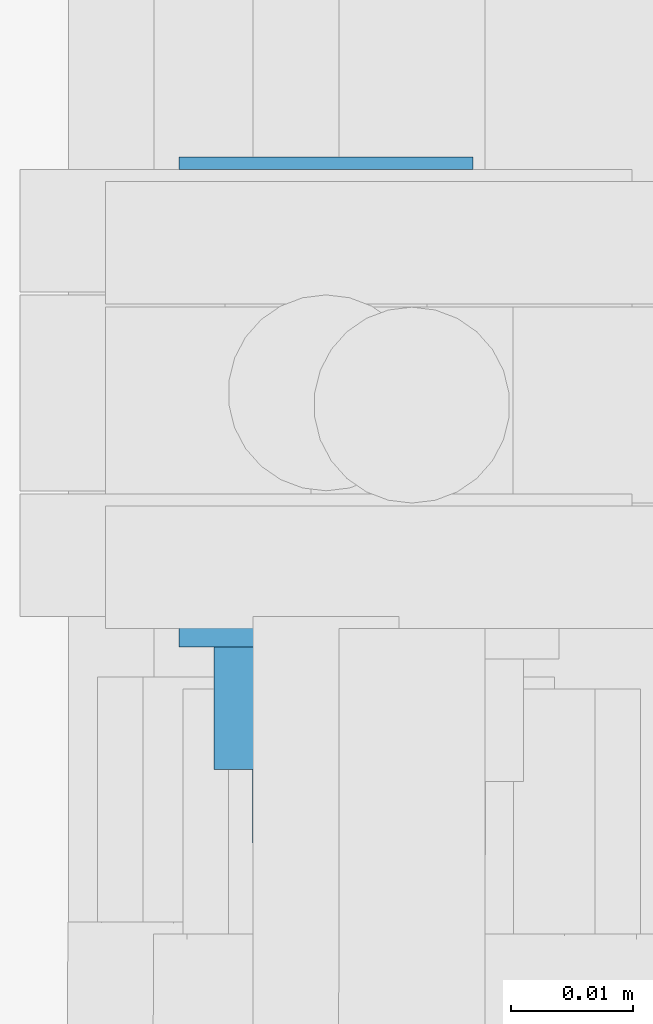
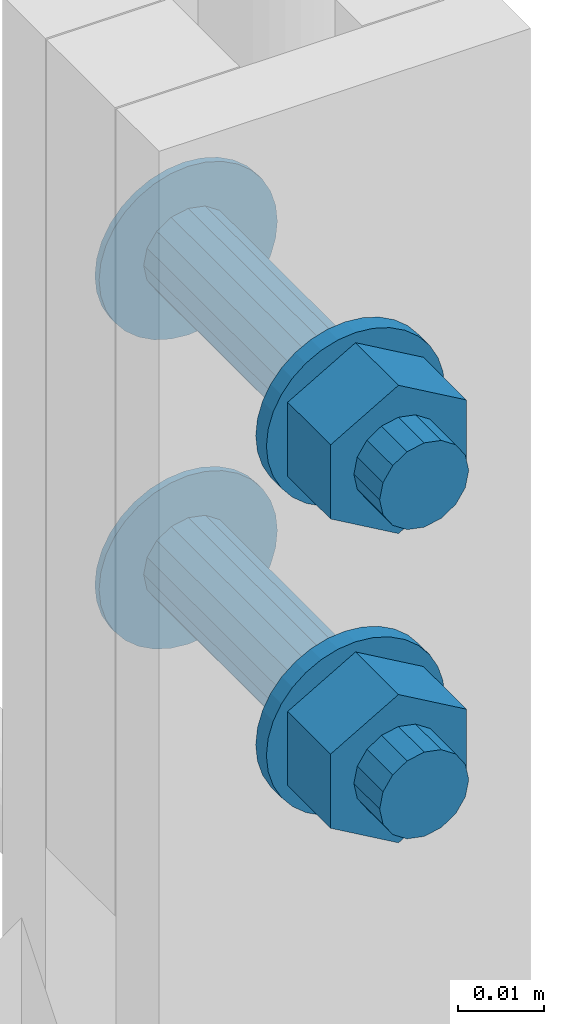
# One storey, part 87 of 98: 1 mechanical fastener.
"""IFC2X3 building model written with IfcOpenShell, lengths in millimetres."""

from ifc_helpers import new_model, entity, si_unit, converted_unit, origin_with_axes, place, context, project, spatial, faceted_brep, element, save


model = new_model("IFC2X3")

# Units and contexts
model_context = context("Model", 3, precision=1e-09, world=origin_with_axes())
ifc_project = project(units=[si_unit("LENGTHUNIT", "METRE", prefix="MILLI"), si_unit("AREAUNIT", "SQUARE_METRE"), si_unit("VOLUMEUNIT", "CUBIC_METRE"), converted_unit("PLANEANGLEUNIT", "DEGREE", entity("IfcPlaneAngleMeasure", 0.01745329), si_unit("PLANEANGLEUNIT", "RADIAN"), dimensions=[0, 0, 0, 0, 0, 0, 0])], contexts=[model_context])

# Site, building, storey
site_placement = place(None, origin_with_axes())
site = spatial("IfcSite", under=ifc_project, at=site_placement, Name="Maybachstra?e 2, 71563 Affalterbach", CompositionType="ELEMENT")
building_placement = place(site_placement, origin_with_axes())
building = spatial("IfcBuilding", under=site, at=building_placement, Name="Struktur 1", CompositionType="ELEMENT")
storey_placement = place(building_placement, origin_with_axes())
storey = spatial("IfcBuildingStorey", under=building, at=storey_placement, Name="Default Storey", CompositionType="ELEMENT", Elevation=0.0)

# Mechanical fastener
mechanical_fastener_placement = place(None, origin_with_axes())
element("IfcMechanicalFastener", 1, at=mechanical_fastener_placement, inside=storey, ObjectType="-", NominalDiameter=12.0, NominalLength=55.0, context=model_context, shape_type="Brep", body=[
    faceted_brep([(12236.032157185, -462.75, 3832.6), (12236.032157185, -463.75, 3832.6), (12235.80158055, -463.75, 3830.258916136), (12235.80158055, -462.75, 3830.258916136), (12235.118711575, -463.75, 3828.007798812), (12235.118711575, -462.75, 3828.007798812), (12234.009792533, -463.75, 3825.933157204), (12234.009792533, -462.75, 3825.933157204), (12232.517438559, -463.75, 3824.114718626), (12232.517438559, -462.75, 3824.114718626), (12230.698999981, -463.75, 3822.622364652), (12230.698999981, -462.75, 3822.622364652), (12228.624358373, -463.75, 3821.51344561), (12228.624358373, -462.75, 3821.51344561), (12226.373241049, -463.75, 3820.830576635), (12226.373241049, -462.75, 3820.830576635), (12224.032157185, -463.75, 3820.6), (12224.032157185, -462.75, 3820.6), (12221.691073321, -463.75, 3820.830576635), (12221.691073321, -462.75, 3820.830576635), (12219.439955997, -463.75, 3821.51344561), (12219.439955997, -462.75, 3821.51344561), (12217.365314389, -463.75, 3822.622364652), (12217.365314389, -462.75, 3822.622364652), (12215.546875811, -463.75, 3824.114718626), (12215.546875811, -462.75, 3824.114718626), (12214.054521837, -463.75, 3825.933157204), (12214.054521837, -462.75, 3825.933157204), (12212.945602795, -463.75, 3828.007798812), (12212.945602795, -462.75, 3828.007798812), (12212.26273382, -463.75, 3830.258916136), (12212.26273382, -462.75, 3830.258916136), (12212.032157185, -463.75, 3832.6), (12212.032157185, -462.75, 3832.6), (12212.26273382, -463.75, 3834.941083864), (12212.26273382, -462.75, 3834.941083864), (12212.945602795, -463.75, 3837.192201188), (12212.945602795, -462.75, 3837.192201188), (12214.054521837, -463.75, 3839.266842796), (12214.054521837, -462.75, 3839.266842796), (12215.546875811, -463.75, 3841.085281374), (12215.546875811, -462.75, 3841.085281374), (12217.365314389, -463.75, 3842.577635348), (12217.365314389, -462.75, 3842.577635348), (12219.439955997, -463.75, 3843.68655439), (12219.439955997, -462.75, 3843.68655439), (12221.691073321, -463.75, 3844.369423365), (12221.691073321, -462.75, 3844.369423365), (12224.032157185, -463.75, 3844.6), (12224.032157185, -462.75, 3844.6), (12226.373241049, -463.75, 3844.369423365), (12226.373241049, -462.75, 3844.369423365), (12228.624358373, -463.75, 3843.68655439), (12228.624358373, -462.75, 3843.68655439), (12230.698999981, -463.75, 3842.577635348), (12230.698999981, -462.75, 3842.577635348), (12232.517438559, -463.75, 3841.085281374), (12232.517438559, -462.75, 3841.085281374), (12234.009792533, -463.75, 3839.266842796), (12234.009792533, -462.75, 3839.266842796), (12235.118711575, -463.75, 3837.192201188), (12235.118711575, -462.75, 3837.192201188), (12235.80158055, -463.75, 3834.941083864), (12235.80158055, -462.75, 3834.941083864)], [[[0, 1, 2, 3]], [[3, 2, 4, 5]], [[5, 4, 6, 7]], [[7, 6, 8, 9]], [[9, 8, 10, 11]], [[11, 10, 12, 13]], [[13, 12, 14, 15]], [[15, 14, 16, 17]], [[17, 16, 18, 19]], [[19, 18, 20, 21]], [[21, 20, 22, 23]], [[23, 22, 24, 25]], [[25, 24, 26, 27]], [[27, 26, 28, 29]], [[29, 28, 30, 31]], [[31, 30, 32, 33]], [[33, 32, 34, 35]], [[35, 34, 36, 37]], [[37, 36, 38, 39]], [[39, 38, 40, 41]], [[41, 40, 42, 43]], [[43, 42, 44, 45]], [[45, 44, 46, 47]], [[47, 46, 48, 49]], [[49, 48, 50, 51]], [[51, 50, 52, 53]], [[53, 52, 54, 55]], [[55, 54, 56, 57]], [[57, 56, 58, 59]], [[59, 58, 60, 61]], [[61, 60, 62, 63]], [[63, 62, 1, 0]], [[0, 3, 5, 7, 9, 11, 13, 15, 17, 19, 21, 23, 25, 27, 29, 31, 33, 35, 37, 39, 41, 43, 45, 47, 49, 51, 53, 55, 57, 59, 61, 63]], [[1, 62, 60, 58, 56, 54, 52, 50, 48, 46, 44, 42, 40, 38, 36, 34, 32, 30, 28, 26, 24, 22, 20, 18, 16, 14, 12, 10, 8, 6, 4, 2]]]),
    faceted_brep([(12236.032157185, -462.75, 3788.6), (12236.032157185, -463.75, 3788.6), (12235.80158055, -463.75, 3786.258916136), (12235.80158055, -462.75, 3786.258916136), (12235.118711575, -463.75, 3784.007798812), (12235.118711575, -462.75, 3784.007798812), (12234.009792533, -463.75, 3781.933157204), (12234.009792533, -462.75, 3781.933157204), (12232.517438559, -463.75, 3780.114718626), (12232.517438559, -462.75, 3780.114718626), (12230.698999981, -463.75, 3778.622364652), (12230.698999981, -462.75, 3778.622364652), (12228.624358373, -463.75, 3777.51344561), (12228.624358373, -462.75, 3777.51344561), (12226.373241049, -463.75, 3776.830576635), (12226.373241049, -462.75, 3776.830576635), (12224.032157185, -463.75, 3776.6), (12224.032157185, -462.75, 3776.6), (12221.691073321, -463.75, 3776.830576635), (12221.691073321, -462.75, 3776.830576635), (12219.439955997, -463.75, 3777.51344561), (12219.439955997, -462.75, 3777.51344561), (12217.365314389, -463.75, 3778.622364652), (12217.365314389, -462.75, 3778.622364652), (12215.546875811, -463.75, 3780.114718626), (12215.546875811, -462.75, 3780.114718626), (12214.054521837, -463.75, 3781.933157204), (12214.054521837, -462.75, 3781.933157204), (12212.945602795, -463.75, 3784.007798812), (12212.945602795, -462.75, 3784.007798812), (12212.26273382, -463.75, 3786.258916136), (12212.26273382, -462.75, 3786.258916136), (12212.032157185, -463.75, 3788.6), (12212.032157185, -462.75, 3788.6), (12212.26273382, -463.75, 3790.941083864), (12212.26273382, -462.75, 3790.941083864), (12212.945602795, -463.75, 3793.192201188), (12212.945602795, -462.75, 3793.192201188), (12214.054521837, -463.75, 3795.266842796), (12214.054521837, -462.75, 3795.266842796), (12215.546875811, -463.75, 3797.085281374), (12215.546875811, -462.75, 3797.085281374), (12217.365314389, -463.75, 3798.577635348), (12217.365314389, -462.75, 3798.577635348), (12219.439955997, -463.75, 3799.68655439), (12219.439955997, -462.75, 3799.68655439), (12221.691073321, -463.75, 3800.369423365), (12221.691073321, -462.75, 3800.369423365), (12224.032157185, -463.75, 3800.6), (12224.032157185, -462.75, 3800.6), (12226.373241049, -463.75, 3800.369423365), (12226.373241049, -462.75, 3800.369423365), (12228.624358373, -463.75, 3799.68655439), (12228.624358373, -462.75, 3799.68655439), (12230.698999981, -463.75, 3798.577635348), (12230.698999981, -462.75, 3798.577635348), (12232.517438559, -463.75, 3797.085281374), (12232.517438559, -462.75, 3797.085281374), (12234.009792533, -463.75, 3795.266842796), (12234.009792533, -462.75, 3795.266842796), (12235.118711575, -463.75, 3793.192201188), (12235.118711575, -462.75, 3793.192201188), (12235.80158055, -463.75, 3790.941083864), (12235.80158055, -462.75, 3790.941083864)], [[[0, 1, 2, 3]], [[3, 2, 4, 5]], [[5, 4, 6, 7]], [[7, 6, 8, 9]], [[9, 8, 10, 11]], [[11, 10, 12, 13]], [[13, 12, 14, 15]], [[15, 14, 16, 17]], [[17, 16, 18, 19]], [[19, 18, 20, 21]], [[21, 20, 22, 23]], [[23, 22, 24, 25]], [[25, 24, 26, 27]], [[27, 26, 28, 29]], [[29, 28, 30, 31]], [[31, 30, 32, 33]], [[33, 32, 34, 35]], [[35, 34, 36, 37]], [[37, 36, 38, 39]], [[39, 38, 40, 41]], [[41, 40, 42, 43]], [[43, 42, 44, 45]], [[45, 44, 46, 47]], [[47, 46, 48, 49]], [[49, 48, 50, 51]], [[51, 50, 52, 53]], [[53, 52, 54, 55]], [[55, 54, 56, 57]], [[57, 56, 58, 59]], [[59, 58, 60, 61]], [[61, 60, 62, 63]], [[63, 62, 1, 0]], [[0, 3, 5, 7, 9, 11, 13, 15, 17, 19, 21, 23, 25, 27, 29, 31, 33, 35, 37, 39, 41, 43, 45, 47, 49, 51, 53, 55, 57, 59, 61, 63]], [[1, 62, 60, 58, 56, 54, 52, 50, 48, 46, 44, 42, 40, 38, 36, 34, 32, 30, 28, 26, 24, 22, 20, 18, 16, 14, 12, 10, 8, 6, 4, 2]]]),
    faceted_brep([(12230.032157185, -463.75, 3832.6), (12230.032157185, -500.25, 3832.6), (12229.57543438, -500.25, 3830.303899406), (12229.57543438, -463.75, 3830.303899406), (12228.274797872, -500.25, 3828.357359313), (12228.274797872, -463.75, 3828.357359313), (12226.328257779, -500.25, 3827.056722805), (12226.328257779, -463.75, 3827.056722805), (12224.032157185, -500.25, 3826.6), (12224.032157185, -463.75, 3826.6), (12221.736056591, -500.25, 3827.056722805), (12221.736056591, -463.75, 3827.056722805), (12219.789516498, -500.25, 3828.357359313), (12219.789516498, -463.75, 3828.357359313), (12218.48887999, -500.25, 3830.303899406), (12218.48887999, -463.75, 3830.303899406), (12218.032157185, -500.25, 3832.6), (12218.032157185, -463.75, 3832.6), (12218.48887999, -500.25, 3834.896100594), (12218.48887999, -463.75, 3834.896100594), (12219.789516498, -500.25, 3836.842640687), (12219.789516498, -463.75, 3836.842640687), (12221.736056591, -500.25, 3838.143277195), (12221.736056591, -463.75, 3838.143277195), (12224.032157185, -500.25, 3838.6), (12224.032157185, -463.75, 3838.6), (12226.328257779, -500.25, 3838.143277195), (12226.328257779, -463.75, 3838.143277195), (12228.274797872, -500.25, 3836.842640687), (12228.274797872, -463.75, 3836.842640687), (12229.57543438, -500.25, 3834.896100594), (12229.57543438, -463.75, 3834.896100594)], [[[0, 1, 2, 3]], [[3, 2, 4, 5]], [[5, 4, 6, 7]], [[7, 6, 8, 9]], [[9, 8, 10, 11]], [[11, 10, 12, 13]], [[13, 12, 14, 15]], [[15, 14, 16, 17]], [[17, 16, 18, 19]], [[19, 18, 20, 21]], [[21, 20, 22, 23]], [[23, 22, 24, 25]], [[25, 24, 26, 27]], [[27, 26, 28, 29]], [[29, 28, 30, 31]], [[31, 30, 1, 0]], [[0, 3, 5, 7, 9, 11, 13, 15, 17, 19, 21, 23, 25, 27, 29, 31]], [[1, 30, 28, 26, 24, 22, 20, 18, 16, 14, 12, 10, 8, 6, 4, 2]]]),
    faceted_brep([(12230.032157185, -463.75, 3788.6), (12230.032157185, -500.25, 3788.6), (12229.57543438, -500.25, 3786.303899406), (12229.57543438, -463.75, 3786.303899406), (12228.274797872, -500.25, 3784.357359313), (12228.274797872, -463.75, 3784.357359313), (12226.328257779, -500.25, 3783.056722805), (12226.328257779, -463.75, 3783.056722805), (12224.032157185, -500.25, 3782.6), (12224.032157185, -463.75, 3782.6), (12221.736056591, -500.25, 3783.056722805), (12221.736056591, -463.75, 3783.056722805), (12219.789516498, -500.25, 3784.357359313), (12219.789516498, -463.75, 3784.357359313), (12218.48887999, -500.25, 3786.303899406), (12218.48887999, -463.75, 3786.303899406), (12218.032157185, -500.25, 3788.6), (12218.032157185, -463.75, 3788.6), (12218.48887999, -500.25, 3790.896100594), (12218.48887999, -463.75, 3790.896100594), (12219.789516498, -500.25, 3792.842640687), (12219.789516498, -463.75, 3792.842640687), (12221.736056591, -500.25, 3794.143277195), (12221.736056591, -463.75, 3794.143277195), (12224.032157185, -500.25, 3794.6), (12224.032157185, -463.75, 3794.6), (12226.328257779, -500.25, 3794.143277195), (12226.328257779, -463.75, 3794.143277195), (12228.274797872, -500.25, 3792.842640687), (12228.274797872, -463.75, 3792.842640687), (12229.57543438, -500.25, 3790.896100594), (12229.57543438, -463.75, 3790.896100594)], [[[0, 1, 2, 3]], [[3, 2, 4, 5]], [[5, 4, 6, 7]], [[7, 6, 8, 9]], [[9, 8, 10, 11]], [[11, 10, 12, 13]], [[13, 12, 14, 15]], [[15, 14, 16, 17]], [[17, 16, 18, 19]], [[19, 18, 20, 21]], [[21, 20, 22, 23]], [[23, 22, 24, 25]], [[25, 24, 26, 27]], [[27, 26, 28, 29]], [[29, 28, 30, 31]], [[31, 30, 1, 0]], [[0, 3, 5, 7, 9, 11, 13, 15, 17, 19, 21, 23, 25, 27, 29, 31]], [[1, 30, 28, 26, 24, 22, 20, 18, 16, 14, 12, 10, 8, 6, 4, 2]]]),
    faceted_brep([(12236.032157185, -500.25, 3832.6), (12236.032157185, -502.75, 3832.6), (12235.80158055, -502.75, 3830.258916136), (12235.80158055, -500.25, 3830.258916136), (12235.118711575, -502.75, 3828.007798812), (12235.118711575, -500.25, 3828.007798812), (12234.009792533, -502.75, 3825.933157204), (12234.009792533, -500.25, 3825.933157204), (12232.517438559, -502.75, 3824.114718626), (12232.517438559, -500.25, 3824.114718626), (12230.698999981, -502.75, 3822.622364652), (12230.698999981, -500.25, 3822.622364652), (12228.624358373, -502.75, 3821.51344561), (12228.624358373, -500.25, 3821.51344561), (12226.373241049, -502.75, 3820.830576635), (12226.373241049, -500.25, 3820.830576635), (12224.032157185, -502.75, 3820.6), (12224.032157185, -500.25, 3820.6), (12221.691073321, -502.75, 3820.830576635), (12221.691073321, -500.25, 3820.830576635), (12219.439955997, -502.75, 3821.51344561), (12219.439955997, -500.25, 3821.51344561), (12217.365314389, -502.75, 3822.622364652), (12217.365314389, -500.25, 3822.622364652), (12215.546875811, -502.75, 3824.114718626), (12215.546875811, -500.25, 3824.114718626), (12214.054521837, -502.75, 3825.933157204), (12214.054521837, -500.25, 3825.933157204), (12212.945602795, -502.75, 3828.007798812), (12212.945602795, -500.25, 3828.007798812), (12212.26273382, -502.75, 3830.258916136), (12212.26273382, -500.25, 3830.258916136), (12212.032157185, -502.75, 3832.6), (12212.032157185, -500.25, 3832.6), (12212.26273382, -502.75, 3834.941083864), (12212.26273382, -500.25, 3834.941083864), (12212.945602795, -502.75, 3837.192201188), (12212.945602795, -500.25, 3837.192201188), (12214.054521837, -502.75, 3839.266842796), (12214.054521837, -500.25, 3839.266842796), (12215.546875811, -502.75, 3841.085281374), (12215.546875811, -500.25, 3841.085281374), (12217.365314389, -502.75, 3842.577635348), (12217.365314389, -500.25, 3842.577635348), (12219.439955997, -502.75, 3843.68655439), (12219.439955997, -500.25, 3843.68655439), (12221.691073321, -502.75, 3844.369423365), (12221.691073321, -500.25, 3844.369423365), (12224.032157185, -502.75, 3844.6), (12224.032157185, -500.25, 3844.6), (12226.373241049, -502.75, 3844.369423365), (12226.373241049, -500.25, 3844.369423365), (12228.624358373, -502.75, 3843.68655439), (12228.624358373, -500.25, 3843.68655439), (12230.698999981, -502.75, 3842.577635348), (12230.698999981, -500.25, 3842.577635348), (12232.517438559, -502.75, 3841.085281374), (12232.517438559, -500.25, 3841.085281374), (12234.009792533, -502.75, 3839.266842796), (12234.009792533, -500.25, 3839.266842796), (12235.118711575, -502.75, 3837.192201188), (12235.118711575, -500.25, 3837.192201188), (12235.80158055, -502.75, 3834.941083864), (12235.80158055, -500.25, 3834.941083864)], [[[0, 1, 2, 3]], [[3, 2, 4, 5]], [[5, 4, 6, 7]], [[7, 6, 8, 9]], [[9, 8, 10, 11]], [[11, 10, 12, 13]], [[13, 12, 14, 15]], [[15, 14, 16, 17]], [[17, 16, 18, 19]], [[19, 18, 20, 21]], [[21, 20, 22, 23]], [[23, 22, 24, 25]], [[25, 24, 26, 27]], [[27, 26, 28, 29]], [[29, 28, 30, 31]], [[31, 30, 32, 33]], [[33, 32, 34, 35]], [[35, 34, 36, 37]], [[37, 36, 38, 39]], [[39, 38, 40, 41]], [[41, 40, 42, 43]], [[43, 42, 44, 45]], [[45, 44, 46, 47]], [[47, 46, 48, 49]], [[49, 48, 50, 51]], [[51, 50, 52, 53]], [[53, 52, 54, 55]], [[55, 54, 56, 57]], [[57, 56, 58, 59]], [[59, 58, 60, 61]], [[61, 60, 62, 63]], [[63, 62, 1, 0]], [[0, 3, 5, 7, 9, 11, 13, 15, 17, 19, 21, 23, 25, 27, 29, 31, 33, 35, 37, 39, 41, 43, 45, 47, 49, 51, 53, 55, 57, 59, 61, 63]], [[1, 62, 60, 58, 56, 54, 52, 50, 48, 46, 44, 42, 40, 38, 36, 34, 32, 30, 28, 26, 24, 22, 20, 18, 16, 14, 12, 10, 8, 6, 4, 2]]]),
    faceted_brep([(12236.032157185, -500.25, 3788.6), (12236.032157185, -502.75, 3788.6), (12235.80158055, -502.75, 3786.258916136), (12235.80158055, -500.25, 3786.258916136), (12235.118711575, -502.75, 3784.007798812), (12235.118711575, -500.25, 3784.007798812), (12234.009792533, -502.75, 3781.933157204), (12234.009792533, -500.25, 3781.933157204), (12232.517438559, -502.75, 3780.114718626), (12232.517438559, -500.25, 3780.114718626), (12230.698999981, -502.75, 3778.622364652), (12230.698999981, -500.25, 3778.622364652), (12228.624358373, -502.75, 3777.51344561), (12228.624358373, -500.25, 3777.51344561), (12226.373241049, -502.75, 3776.830576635), (12226.373241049, -500.25, 3776.830576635), (12224.032157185, -502.75, 3776.6), (12224.032157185, -500.25, 3776.6), (12221.691073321, -502.75, 3776.830576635), (12221.691073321, -500.25, 3776.830576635), (12219.439955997, -502.75, 3777.51344561), (12219.439955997, -500.25, 3777.51344561), (12217.365314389, -502.75, 3778.622364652), (12217.365314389, -500.25, 3778.622364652), (12215.546875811, -502.75, 3780.114718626), (12215.546875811, -500.25, 3780.114718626), (12214.054521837, -502.75, 3781.933157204), (12214.054521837, -500.25, 3781.933157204), (12212.945602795, -502.75, 3784.007798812), (12212.945602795, -500.25, 3784.007798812), (12212.26273382, -502.75, 3786.258916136), (12212.26273382, -500.25, 3786.258916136), (12212.032157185, -502.75, 3788.6), (12212.032157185, -500.25, 3788.6), (12212.26273382, -502.75, 3790.941083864), (12212.26273382, -500.25, 3790.941083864), (12212.945602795, -502.75, 3793.192201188), (12212.945602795, -500.25, 3793.192201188), (12214.054521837, -502.75, 3795.266842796), (12214.054521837, -500.25, 3795.266842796), (12215.546875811, -502.75, 3797.085281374), (12215.546875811, -500.25, 3797.085281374), (12217.365314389, -502.75, 3798.577635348), (12217.365314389, -500.25, 3798.577635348), (12219.439955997, -502.75, 3799.68655439), (12219.439955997, -500.25, 3799.68655439), (12221.691073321, -502.75, 3800.369423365), (12221.691073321, -500.25, 3800.369423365), (12224.032157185, -502.75, 3800.6), (12224.032157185, -500.25, 3800.6), (12226.373241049, -502.75, 3800.369423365), (12226.373241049, -500.25, 3800.369423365), (12228.624358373, -502.75, 3799.68655439), (12228.624358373, -500.25, 3799.68655439), (12230.698999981, -502.75, 3798.577635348), (12230.698999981, -500.25, 3798.577635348), (12232.517438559, -502.75, 3797.085281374), (12232.517438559, -500.25, 3797.085281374), (12234.009792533, -502.75, 3795.266842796), (12234.009792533, -500.25, 3795.266842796), (12235.118711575, -502.75, 3793.192201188), (12235.118711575, -500.25, 3793.192201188), (12235.80158055, -502.75, 3790.941083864), (12235.80158055, -500.25, 3790.941083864)], [[[0, 1, 2, 3]], [[3, 2, 4, 5]], [[5, 4, 6, 7]], [[7, 6, 8, 9]], [[9, 8, 10, 11]], [[11, 10, 12, 13]], [[13, 12, 14, 15]], [[15, 14, 16, 17]], [[17, 16, 18, 19]], [[19, 18, 20, 21]], [[21, 20, 22, 23]], [[23, 22, 24, 25]], [[25, 24, 26, 27]], [[27, 26, 28, 29]], [[29, 28, 30, 31]], [[31, 30, 32, 33]], [[33, 32, 34, 35]], [[35, 34, 36, 37]], [[37, 36, 38, 39]], [[39, 38, 40, 41]], [[41, 40, 42, 43]], [[43, 42, 44, 45]], [[45, 44, 46, 47]], [[47, 46, 48, 49]], [[49, 48, 50, 51]], [[51, 50, 52, 53]], [[53, 52, 54, 55]], [[55, 54, 56, 57]], [[57, 56, 58, 59]], [[59, 58, 60, 61]], [[61, 60, 62, 63]], [[63, 62, 1, 0]], [[0, 3, 5, 7, 9, 11, 13, 15, 17, 19, 21, 23, 25, 27, 29, 31, 33, 35, 37, 39, 41, 43, 45, 47, 49, 51, 53, 55, 57, 59, 61, 63]], [[1, 62, 60, 58, 56, 54, 52, 50, 48, 46, 44, 42, 40, 38, 36, 34, 32, 30, 28, 26, 24, 22, 20, 18, 16, 14, 12, 10, 8, 6, 4, 2]]]),
    faceted_brep([(12214.895589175, -512.75, 3827.325), (12214.895589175, -502.75, 3827.325), (12224.032157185, -502.75, 3822.05), (12224.032157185, -512.75, 3822.05), (12233.168725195, -502.75, 3827.325), (12233.168725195, -512.75, 3827.325), (12233.168725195, -502.75, 3837.875), (12233.168725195, -512.75, 3837.875), (12224.032157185, -502.75, 3843.15), (12224.032157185, -512.75, 3843.15), (12214.895589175, -502.75, 3837.875), (12214.895589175, -512.75, 3837.875)], [[[0, 1, 2, 3]], [[3, 2, 4, 5]], [[5, 4, 6, 7]], [[7, 6, 8, 9]], [[9, 8, 10, 11]], [[11, 10, 1, 0]], [[4, 2, 1, 10, 8, 6]], [[0, 3, 5, 7, 9, 11]]]),
    faceted_brep([(12214.895589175, -512.75, 3783.325), (12214.895589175, -502.75, 3783.325), (12224.032157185, -502.75, 3778.05), (12224.032157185, -512.75, 3778.05), (12233.168725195, -502.75, 3783.325), (12233.168725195, -512.75, 3783.325), (12233.168725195, -502.75, 3793.875), (12233.168725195, -512.75, 3793.875), (12224.032157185, -502.75, 3799.15), (12224.032157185, -512.75, 3799.15), (12214.895589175, -502.75, 3793.875), (12214.895589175, -512.75, 3793.875)], [[[0, 1, 2, 3]], [[3, 2, 4, 5]], [[5, 4, 6, 7]], [[7, 6, 8, 9]], [[9, 8, 10, 11]], [[11, 10, 1, 0]], [[4, 2, 1, 10, 8, 6]], [[0, 3, 5, 7, 9, 11]]]),
    faceted_brep([(12230.032157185, -512.75, 3832.6), (12230.032157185, -518.75, 3832.6), (12229.57543438, -518.75, 3830.303899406), (12229.57543438, -512.75, 3830.303899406), (12228.274797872, -518.75, 3828.357359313), (12228.274797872, -512.75, 3828.357359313), (12226.328257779, -518.75, 3827.056722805), (12226.328257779, -512.75, 3827.056722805), (12224.032157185, -518.75, 3826.6), (12224.032157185, -512.75, 3826.6), (12221.736056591, -518.75, 3827.056722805), (12221.736056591, -512.75, 3827.056722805), (12219.789516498, -518.75, 3828.357359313), (12219.789516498, -512.75, 3828.357359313), (12218.48887999, -518.75, 3830.303899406), (12218.48887999, -512.75, 3830.303899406), (12218.032157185, -518.75, 3832.6), (12218.032157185, -512.75, 3832.6), (12218.48887999, -518.75, 3834.896100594), (12218.48887999, -512.75, 3834.896100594), (12219.789516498, -518.75, 3836.842640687), (12219.789516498, -512.75, 3836.842640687), (12221.736056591, -518.75, 3838.143277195), (12221.736056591, -512.75, 3838.143277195), (12224.032157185, -518.75, 3838.6), (12224.032157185, -512.75, 3838.6), (12226.328257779, -518.75, 3838.143277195), (12226.328257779, -512.75, 3838.143277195), (12228.274797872, -518.75, 3836.842640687), (12228.274797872, -512.75, 3836.842640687), (12229.57543438, -518.75, 3834.896100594), (12229.57543438, -512.75, 3834.896100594)], [[[0, 1, 2, 3]], [[3, 2, 4, 5]], [[5, 4, 6, 7]], [[7, 6, 8, 9]], [[9, 8, 10, 11]], [[11, 10, 12, 13]], [[13, 12, 14, 15]], [[15, 14, 16, 17]], [[17, 16, 18, 19]], [[19, 18, 20, 21]], [[21, 20, 22, 23]], [[23, 22, 24, 25]], [[25, 24, 26, 27]], [[27, 26, 28, 29]], [[29, 28, 30, 31]], [[31, 30, 1, 0]], [[0, 3, 5, 7, 9, 11, 13, 15, 17, 19, 21, 23, 25, 27, 29, 31]], [[1, 30, 28, 26, 24, 22, 20, 18, 16, 14, 12, 10, 8, 6, 4, 2]]]),
    faceted_brep([(12230.032157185, -512.75, 3788.6), (12230.032157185, -518.75, 3788.6), (12229.57543438, -518.75, 3786.303899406), (12229.57543438, -512.75, 3786.303899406), (12228.274797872, -518.75, 3784.357359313), (12228.274797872, -512.75, 3784.357359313), (12226.328257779, -518.75, 3783.056722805), (12226.328257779, -512.75, 3783.056722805), (12224.032157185, -518.75, 3782.6), (12224.032157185, -512.75, 3782.6), (12221.736056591, -518.75, 3783.056722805), (12221.736056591, -512.75, 3783.056722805), (12219.789516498, -518.75, 3784.357359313), (12219.789516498, -512.75, 3784.357359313), (12218.48887999, -518.75, 3786.303899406), (12218.48887999, -512.75, 3786.303899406), (12218.032157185, -518.75, 3788.6), (12218.032157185, -512.75, 3788.6), (12218.48887999, -518.75, 3790.896100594), (12218.48887999, -512.75, 3790.896100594), (12219.789516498, -518.75, 3792.842640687), (12219.789516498, -512.75, 3792.842640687), (12221.736056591, -518.75, 3794.143277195), (12221.736056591, -512.75, 3794.143277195), (12224.032157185, -518.75, 3794.6), (12224.032157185, -512.75, 3794.6), (12226.328257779, -518.75, 3794.143277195), (12226.328257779, -512.75, 3794.143277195), (12228.274797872, -518.75, 3792.842640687), (12228.274797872, -512.75, 3792.842640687), (12229.57543438, -518.75, 3790.896100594), (12229.57543438, -512.75, 3790.896100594)], [[[0, 1, 2, 3]], [[3, 2, 4, 5]], [[5, 4, 6, 7]], [[7, 6, 8, 9]], [[9, 8, 10, 11]], [[11, 10, 12, 13]], [[13, 12, 14, 15]], [[15, 14, 16, 17]], [[17, 16, 18, 19]], [[19, 18, 20, 21]], [[21, 20, 22, 23]], [[23, 22, 24, 25]], [[25, 24, 26, 27]], [[27, 26, 28, 29]], [[29, 28, 30, 31]], [[31, 30, 1, 0]], [[0, 3, 5, 7, 9, 11, 13, 15, 17, 19, 21, 23, 25, 27, 29, 31]], [[1, 30, 28, 26, 24, 22, 20, 18, 16, 14, 12, 10, 8, 6, 4, 2]]]),
])

save(model, "model.ifc")
